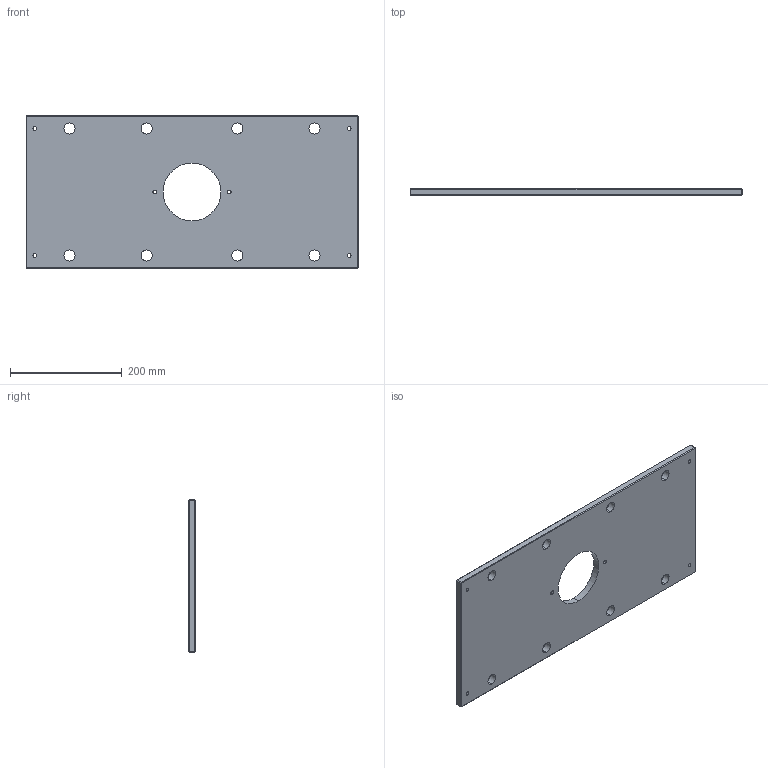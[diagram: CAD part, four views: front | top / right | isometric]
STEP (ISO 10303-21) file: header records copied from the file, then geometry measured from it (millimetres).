
FILE_DESCRIPTION (( 'STEP AP214' ), '1' );
FILE_NAME ('ME-0619-CH-1123.STEP', '2020-02-12T09:18:25', ( '' ), ( '' ), 'SwSTEP 2.0', 'SolidWorks 2018', '' );
FILE_SCHEMA (( 'AUTOMOTIVE_DESIGN' ));
Length unit declared in the file: inch
Products named in the file (1): ME-0619-CH-1123
Bounding box: 593.73 x 12.7 x 273.05 mm (x, y, z)
Volume: 1914406.9 mm3; surface area: 333449.6 mm2
Topology: 1 solids, 1 shells, 68 faces, 162 edges, 96 vertices
Faces by surface type: cylinder 30, plane 26, cone 12
Entity records: 2050 total; most frequent: DIRECTION 372, CARTESIAN_POINT 327, ORIENTED_EDGE 324, EDGE_CURVE 162, AXIS2_PLACEMENT_3D 141, EDGE_LOOP 98, VERTEX_POINT 96, VECTOR 90
